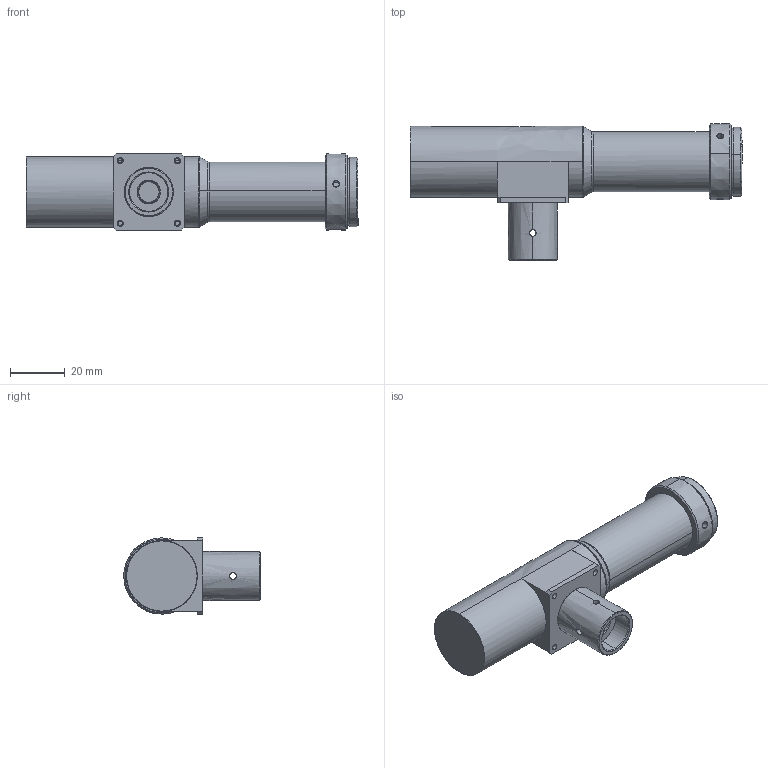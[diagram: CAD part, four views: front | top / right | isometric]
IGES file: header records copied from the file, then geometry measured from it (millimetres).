
Start section: SolidWorks IGES file using analytic representation for surfaces
Bounding box: 121.81 x 50.09 x 28 mm (x, y, z)
Surface area: 13718.7 mm2 (no closed solid volume)
Topology: 0 solids, 0 shells, 116 faces, 2041 edges, 2041 vertices
Faces by surface type: revolution 74, bspline 42
